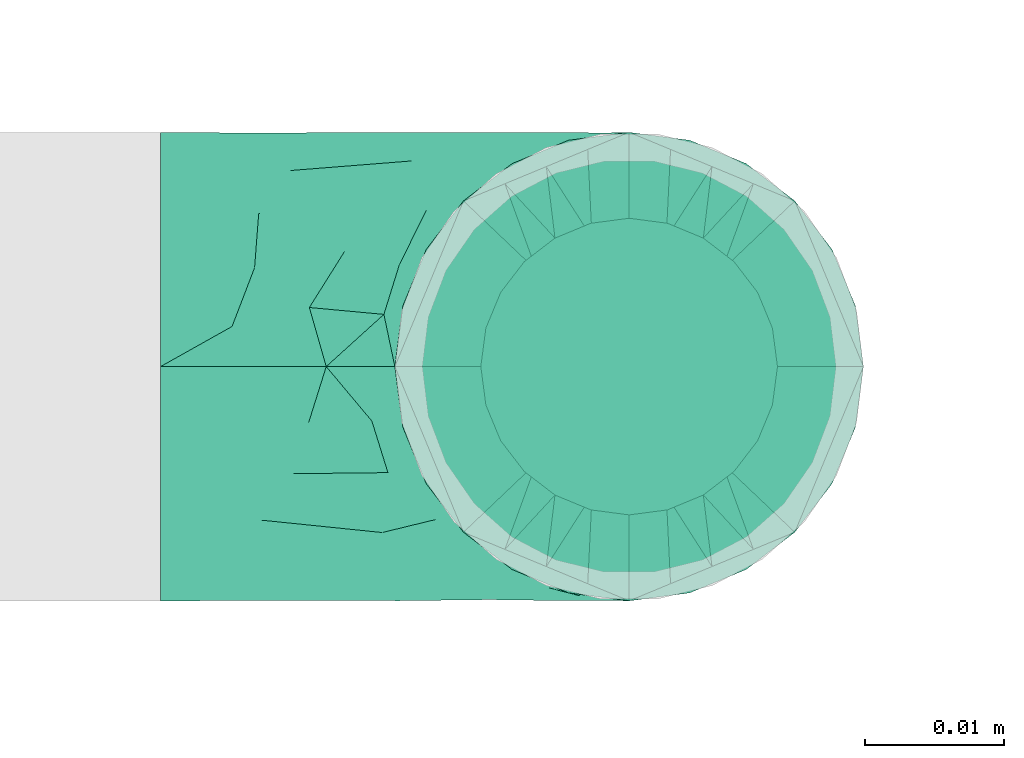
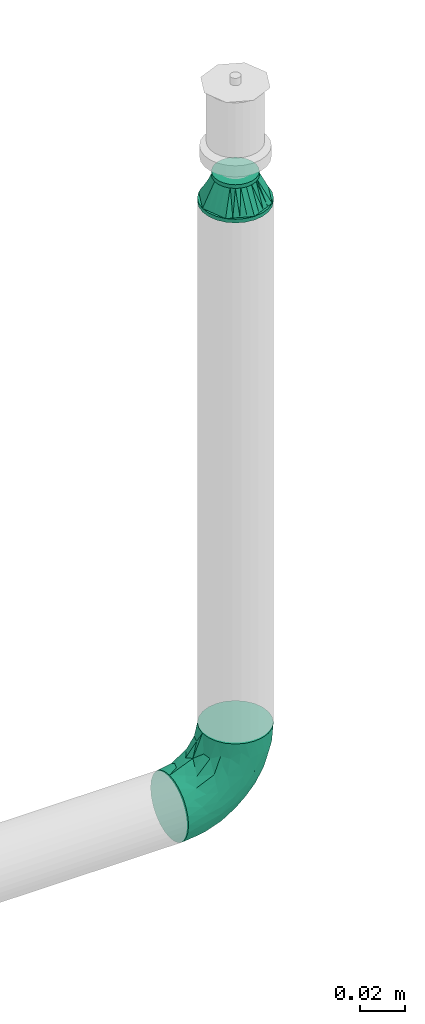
# One storey, part 48 of 63: 2 flow fittings.
"""IFC2X3 building model written with IfcOpenShell, lengths in millimetres."""

import ifcopenshell
import ifcopenshell.guid

model = None  # the IFC model being written
_history = None  # IfcOwnerHistory: only IFC2X3 demands one
_inside = {}  # id of a spatial element -> (the spatial element, [elements in it])
_under = {}  # id of a project, library or spatial element -> (it, [spatial elements below it])
_declared = {}  # id of a project -> (the project, [libraries it declares])
_typed = {}  # id of a type object -> (the type object, [elements of that type])
_made_of = {}  # id of a material, layer set ... -> (it, [elements and type objects made of it])


def new_model(schema):
    """Start an empty IFC model of exactly this schema.

    Asked for "IFC4X3", IfcOpenShell would pick the latest addendum, in which some entities
    have other attributes; the version numbers below select the first issue.
    IFC2X3 requires an IfcOwnerHistory on every rooted entity: one is made here for all.
    """
    global model, _history
    if schema == "IFC4X3":
        model = ifcopenshell.file(schema_version=(4, 3, 0, 0))
    else:
        model = ifcopenshell.file(schema=schema)
    _inside.clear()
    _under.clear()
    _declared.clear()
    _typed.clear()
    _made_of.clear()
    _history = None
    if model.schema == "IFC2X3":
        org = make("IfcOrganization", Name="unknown")
        user = make(
            "IfcPersonAndOrganization",
            ThePerson=make("IfcPerson", FamilyName="unknown"),
            TheOrganization=org,
        )
        app = make(
            "IfcApplication",
            ApplicationDeveloper=org,
            Version="unknown",
            ApplicationFullName="unknown",
            ApplicationIdentifier="unknown",
        )
        _history = make(
            "IfcOwnerHistory",
            OwningUser=user,
            OwningApplication=app,
            ChangeAction="ADDED",
            CreationDate=0,
        )
    return model


def make(cls, **values):
    """One entity of the class cls with the attributes given. An attribute that is None is left unset."""
    return model.create_entity(
        cls, **{name: value for name, value in values.items() if value is not None}
    )


def entity(cls, *values):
    """Any entity or typed value of the class cls, its attributes in the order of the schema. None: left unset."""
    e = model.create_entity(cls)
    for i, value in enumerate(values):
        if value is not None:
            e[i] = value
    return e


def rooted(cls, **values):
    """An entity with a GlobalId (a new one), such as an element, a storey or a relation."""
    return make(cls, GlobalId=ifcopenshell.guid.new(), OwnerHistory=_history, **values)


def si_unit(unit_type, name, prefix=None):
    """IfcSIUnit, for example si_unit("LENGTHUNIT", "METRE", prefix="MILLI")."""
    return make("IfcSIUnit", UnitType=unit_type, Prefix=prefix, Name=name)


def converted_unit(unit_type, name, factor, base, dimensions=None, offset=None):
    """IfcConversionBasedUnit, such as the inch: factor (a typed value) times the base unit."""
    return make(
        "IfcConversionBasedUnit"
        if offset is None
        else "IfcConversionBasedUnitWithOffset",
        ConversionOffset=offset,
        Dimensions=None
        if dimensions is None
        else entity("IfcDimensionalExponents", *dimensions),
        UnitType=unit_type,
        Name=name,
        ConversionFactor=make(
            "IfcMeasureWithUnit", ValueComponent=factor, UnitComponent=base
        ),
    )


def derived_unit(unit_type, elements):
    """IfcDerivedUnit: a product of units, each with its exponent."""
    return make(
        "IfcDerivedUnit",
        Elements=[
            make("IfcDerivedUnitElement", Unit=unit, Exponent=power)
            for unit, power in elements
        ],
        UnitType=unit_type,
    )


def assignment(units):
    """IfcUnitAssignment: the units of a project."""
    return None if units is None else make("IfcUnitAssignment", Units=units)


def point(xyz):
    """IfcCartesianPoint."""
    return None if xyz is None else make("IfcCartesianPoint", Coordinates=xyz)


def direction(xyz):
    """IfcDirection."""
    return None if xyz is None else make("IfcDirection", DirectionRatios=xyz)


def frame(location, z_axis=None, x_axis=None):
    """IfcAxis2Placement3D, a coordinate frame: its origin and axes. An axis left out is left unset."""
    return make(
        "IfcAxis2Placement3D",
        Location=point(location),
        Axis=direction(z_axis),
        RefDirection=direction(x_axis),
    )


def origin_with_axes():
    """The frame at (0, 0, 0) with the z axis (0, 0, 1) and the x axis (1, 0, 0) written out."""
    return frame((0.0, 0.0, 0.0), z_axis=(0.0, 0.0, 1.0), x_axis=(1.0, 0.0, 0.0))


def place(relative_to, where):
    """IfcLocalPlacement: puts the frame where relative to a parent placement (None: the world)."""
    return make(
        "IfcLocalPlacement", PlacementRelTo=relative_to, RelativePlacement=where
    )


def context(
    kind, dimensions, precision=None, world=None, true_north=None, identifier=None
):
    """IfcGeometricRepresentationContext, for example the 3D "Model" context."""
    return make(
        "IfcGeometricRepresentationContext",
        ContextIdentifier=identifier,
        ContextType=kind,
        CoordinateSpaceDimension=dimensions,
        Precision=precision,
        WorldCoordinateSystem=world,
        TrueNorth=true_north,
    )


def subcontext(parent, identifier, kind, view, scale=None):
    """IfcGeometricRepresentationSubContext, for example "Body" below "Model"."""
    return make(
        "IfcGeometricRepresentationSubContext",
        ContextIdentifier=identifier,
        ContextType=kind,
        ParentContext=parent,
        TargetScale=scale,
        TargetView=view,
    )


def project(units=None, contexts=None):
    """IfcProject with its units and contexts."""
    return rooted(
        "IfcProject",
        Name="project",
        RepresentationContexts=contexts,
        UnitsInContext=assignment(units),
    )


def spatial(cls, under=None, at=None, **own):
    """A site, building, storey or space (cls), placed at a placement, below another one or the project."""
    s = rooted(cls, ObjectPlacement=at, **own)
    if under is not None:
        _under.setdefault(under.id(), (under, []))[1].append(s)
    return s


def faces_of(points, faces, orient=None, outer=None):
    """IfcFace entities. A face is a list of loops; a loop is a list of indices into points, from 0.

    orient and outer hold one flag for each loop. By default every Orientation is true, the
    first loop of a face is its IfcFaceOuterBound and the others are IfcFaceBound.
    """
    made = []
    for i, loops in enumerate(faces):
        bounds = []
        for j, loop in enumerate(loops):
            is_outer = j == 0 if outer is None else outer[i][j]
            bounds.append(
                make(
                    "IfcFaceOuterBound" if is_outer else "IfcFaceBound",
                    Bound=make("IfcPolyLoop", Polygon=[points[k] for k in loop]),
                    Orientation=True if orient is None else orient[i][j],
                )
            )
        made.append(make("IfcFace", Bounds=bounds))
    return made


def open_shell(faces, orient=None, outer=None):
    """The faces of one IfcOpenShell. surface_model builds it on its shared points."""
    return ("IfcOpenShell", faces, orient, outer)


def surface_model(cls, points, shells):
    """IfcFaceBasedSurfaceModel or IfcShellBasedSurfaceModel (cls): surfaces that need not close."""
    shared = [point(p) for p in points]
    made = [make(c, CfsFaces=faces_of(shared, fs, o, b)) for c, fs, o, b in shells]
    if cls == "IfcFaceBasedSurfaceModel":
        return make(cls, FbsmFaces=made)
    return make(cls, SbsmBoundary=made)


def shape(context_of_items, identifier, shape_type, items):
    """IfcShapeRepresentation: the items that make up one representation, for example the "Body"."""
    return make(
        "IfcShapeRepresentation",
        ContextOfItems=context_of_items,
        RepresentationIdentifier=identifier,
        RepresentationType=shape_type,
        Items=items,
    )


def source(mapping_origin, context_of_items, identifier, shape_type, items):
    """IfcRepresentationMap: a shape defined once, which mapped items show again and again."""
    return make(
        "IfcRepresentationMap",
        MappingOrigin=mapping_origin,
        MappedRepresentation=shape(context_of_items, identifier, shape_type, items),
    )


def transform(
    local_origin,
    x_axis=None,
    y_axis=None,
    z_axis=None,
    scale=None,
    scale2=None,
    scale3=None,
    uniform=True,
):
    """IfcCartesianTransformationOperator3D, or its non-uniform kind. x_axis, y_axis, z_axis: its Axis1, 2, 3."""
    if uniform:
        return make(
            "IfcCartesianTransformationOperator3D",
            Axis1=direction(x_axis),
            Axis2=direction(y_axis),
            LocalOrigin=point(local_origin),
            Scale=scale,
            Axis3=direction(z_axis),
        )
    return make(
        "IfcCartesianTransformationOperator3DnonUniform",
        Axis1=direction(x_axis),
        Axis2=direction(y_axis),
        LocalOrigin=point(local_origin),
        Scale=scale,
        Axis3=direction(z_axis),
        Scale2=scale2,
        Scale3=scale3,
    )


def mapped(mapping_source, mapping_target):
    """IfcMappedItem: shows the shape of a source again, moved by a transform."""
    return make(
        "IfcMappedItem", MappingSource=mapping_source, MappingTarget=mapping_target
    )


def made_of(thing, what):
    """Note that an element or type object is made of a material, layer set ...; save() writes the relation."""
    if what is not None:
        _made_of.setdefault(what.id(), (what, []))[1].append(thing)
    return thing


def type_object(cls, material=None, **own):
    """A type object (cls), such as IfcWallType, which elements share."""
    return made_of(rooted(cls, **own), material)


def element(
    cls,
    number,
    at=None,
    inside=None,
    cuts=None,
    type_object=None,
    material=None,
    context=None,
    identifier="Body",
    shape_type=None,
    held_by="IfcProductDefinitionShape",
    body=None,
    shapes=None,
    **own,
):
    """One element of the class cls, such as IfcWall. Its Tag is "e" and its number.

    at: its placement. inside: the storey or other place that contains it. cuts: it is an
    opening in that element (IfcRelVoidsElement). A single representation is given by context,
    identifier, shape_type and body (its items); several are given by shapes. held_by: the class
    of the entity that holds the representations. save() writes the other relations.
    """
    e = rooted(cls, Tag="e%d" % number, ObjectPlacement=at, **own)
    if body is not None:
        shapes = [shape(context, identifier, shape_type, body)]
    if shapes is not None:
        e.Representation = make(held_by, Representations=shapes)
    if inside is not None:
        _inside.setdefault(inside.id(), (inside, []))[1].append(e)
    if cuts is not None:
        rooted(
            "IfcRelVoidsElement", RelatingBuildingElement=cuts, RelatedOpeningElement=e
        )
    if type_object is not None:
        _typed.setdefault(type_object.id(), (type_object, []))[1].append(e)
    return made_of(e, material)


def aggregate(whole, parts):
    """IfcRelAggregates: a whole, such as a stair, and the parts it consists of."""
    return rooted("IfcRelAggregates", RelatingObject=whole, RelatedObjects=parts)


def save(model, path):
    """Write the relations noted so far, then the file.

    IfcRelAggregates (storeys below a building ...), IfcRelContainedInSpatialStructure (elements
    in a storey), IfcRelDefinesByType, IfcRelAssociatesMaterial and IfcRelDeclares: one each for
    every whole, place, type object, material and project.
    """
    for whole, parts in _under.values():
        aggregate(whole, parts)
    for where, things in _inside.values():
        rooted(
            "IfcRelContainedInSpatialStructure",
            RelatedElements=things,
            RelatingStructure=where,
        )
    for kind, things in _typed.values():
        rooted("IfcRelDefinesByType", RelatedObjects=things, RelatingType=kind)
    for what, things in _made_of.values():
        rooted("IfcRelAssociatesMaterial", RelatedObjects=things, RelatingMaterial=what)
    for by, libraries in _declared.values():
        rooted("IfcRelDeclares", RelatingContext=by, RelatedDefinitions=libraries)
    model.write(path)


model = new_model("IFC2X3")

# Units and contexts
model_context = context("Model", 3, precision=0.01, world=frame((0.0, 4.29681676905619e-09, 0.0)), true_north=direction((4.01073788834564e-13, 1.0)))
plan_context = context("Plan", 3, precision=0.01, world=frame((0.0, 4.29681676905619e-09, 0.0)), true_north=direction((4.01073788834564e-13, 1.0)))
body_context = subcontext(model_context, "Body", "Model", "MODEL_VIEW")
ifc_project = project(units=[converted_unit("PLANEANGLEUNIT", "DEGREE", entity("IfcPositiveLengthMeasure", 0.0174532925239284), si_unit("PLANEANGLEUNIT", "RADIAN"), dimensions=[0, 0, 0, 0, 0, 0, 0]), si_unit("AREAUNIT", "SQUARE_METRE"), si_unit("LENGTHUNIT", "METRE", prefix="MILLI"), si_unit("MASSUNIT", "GRAM", prefix="KILO"), si_unit("POWERUNIT", "WATT"), si_unit("PRESSUREUNIT", "PASCAL", prefix="KILO"), si_unit("FORCEUNIT", "NEWTON", prefix="KILO"), si_unit("ELECTRICVOLTAGEUNIT", "VOLT"), si_unit("ELECTRICCURRENTUNIT", "AMPERE"), si_unit("THERMODYNAMICTEMPERATUREUNIT", "DEGREE_CELSIUS"), si_unit("TIMEUNIT", "SECOND"), si_unit("VOLUMEUNIT", "CUBIC_METRE"), derived_unit("LINEARVELOCITYUNIT", [(si_unit("LENGTHUNIT", "METRE"), 1), (si_unit("TIMEUNIT", "SECOND"), -1)]), derived_unit("VOLUMETRICFLOWRATEUNIT", [(si_unit("VOLUMEUNIT", "CUBIC_METRE"), 1), (si_unit("TIMEUNIT", "SECOND"), -1)]), derived_unit("THERMALTRANSMITTANCEUNIT", [(si_unit("POWERUNIT", "WATT"), 1), (si_unit("THERMODYNAMICTEMPERATUREUNIT", "KELVIN"), -1), (si_unit("AREAUNIT", "SQUARE_METRE"), -1)]), derived_unit("SOUNDPRESSUREUNIT", [(si_unit("PRESSUREUNIT", "PASCAL"), 1)])], contexts=[model_context, plan_context])

# Site, building, storey
site_placement = place(None, frame((0.0, -4.29681676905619e-09, 0.0), z_axis=(0.0, 0.0, 1.0), x_axis=(1.0, 0.0, 0.0)))
site = spatial("IfcSite", under=ifc_project, at=site_placement, CompositionType="ELEMENT")
building_placement = place(site_placement, frame((0.0, 4.29681676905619e-09, 0.0), z_axis=(0.0, 0.0, 1.0), x_axis=(1.0, 0.0, 0.0)))
building = spatial("IfcBuilding", under=site, at=building_placement, Name="mc-building", CompositionType="ELEMENT")
storey_placement = place(building_placement, frame((0.0, 0.0, 207370.0), z_axis=(0.0, 0.0, 1.0), x_axis=(1.0, 0.0, 0.0)))
storey = spatial("IfcBuildingStorey", under=building, at=storey_placement, Name="Nivå E", CompositionType="ELEMENT", Elevation=207370.0)

# Flow fittings
pipe_fitting_type_1 = type_object("IfcPipeFittingType", Name="magi_pipe_fe_reducer_centric_short_NOR", PredefinedType="TRANSITION")
shared_shape_1 = source(origin_with_axes(), body_context, "Body", "SurfaceModel", [
    surface_model("IfcShellBasedSurfaceModel", [(14.4, 5.35, -9.26647), (14.4, 0.0, -10.7), (14.4, 2.76936, -10.33541), (14.4, 10.33541, -2.76936), (14.4, 7.56604, -7.56604), (14.4, -10.33541, -2.76936), (14.4, 9.26647, -5.35), (14.4, 0.0, 10.7), (14.4, -5.35, -9.26647), (14.4, -2.76936, -10.33541), (14.4, -7.56604, -7.56604), (14.4, -9.26647, -5.35), (14.4, 10.7, 0.0), (14.4, 10.33541, 2.76936), (14.4, 9.26647, 5.35), (14.4, 7.56604, 7.56604), (14.4, 2.76936, 10.33541), (14.4, 5.35, 9.26647), (14.4, -10.33541, 2.76936), (14.4, -7.56604, 7.56604), (14.4, -9.26647, 5.35), (14.4, -10.7, 0.0), (14.4, -2.76936, 10.33541), (14.4, -5.35, 9.26647), (12.4, 2.76936, 10.33541), (12.4, -10.33541, -2.76936), (12.4, 0.0, 10.7), (12.4, 5.35, 9.26647), (12.4, 7.56604, 7.56604), (12.4, 9.26647, 5.35), (12.4, 10.33541, 2.76936), (12.4, -10.33541, 2.76936), (12.4, -2.76936, 10.33541), (12.4, -7.56604, 7.56604), (12.4, -5.35, 9.26647), (12.4, -9.26647, 5.35), (12.4, -10.7, 0.0), (12.4, 10.33541, -2.76936), (12.4, 5.35, -9.26647), (12.4, 9.26647, -5.35), (12.4, 7.56604, -7.56604), (12.4, 2.76936, -10.33541), (12.4, -9.26647, -5.35), (12.4, -5.35, -9.26647), (12.4, -7.56604, -7.56604), (12.4, 0.0, -10.7), (12.4, -2.76936, -10.33541), (12.4, 10.7, 0.0), (-2.0, 11.9501, 11.9501), (-2.0, 0.0, 16.9), (-2.0, 4.37404, 16.32415), (-2.0, 8.45, 14.63583), (-2.0, 14.63583, 8.45), (-2.0, 16.32415, 4.37404), (-2.0, -16.32415, 4.37404), (-2.0, -8.45, 14.63583), (-2.0, -14.63583, 8.45), (-2.0, -11.9501, 11.9501), (-2.0, -4.37404, 16.32415), (-2.0, -16.32415, -4.37404), (-2.0, -16.9, 0.0), (-2.0, -8.45, -14.63583), (-2.0, 16.32415, -4.37404), (-2.0, 11.9501, -11.9501), (-2.0, 14.63583, -8.45), (-2.0, 8.45, -14.63583), (-2.0, 4.37404, -16.32415), (-2.0, 0.0, -16.9), (-2.0, -11.9501, -11.9501), (-2.0, -14.63583, -8.45), (-2.0, -4.37404, -16.32415), (-2.0, 16.9, 0.0), (0.0, 4.37404, -16.32415), (0.0, 8.45, -14.63583), (0.0, 11.9501, -11.9501), (0.0, 0.0, -16.9), (0.0, 16.32415, -4.37404), (0.0, 16.32415, 4.37404), (0.0, 14.63583, -8.45), (0.0, -8.45, -14.63583), (0.0, -4.37404, -16.32415), (0.0, -11.9501, -11.9501), (0.0, -16.32415, -4.37404), (0.0, -14.63583, -8.45), (0.0, -16.32415, 4.37404), (0.0, 16.9, 0.0), (0.0, 14.63583, 8.45), (0.0, 11.9501, 11.9501), (0.0, 4.37404, 16.32415), (0.0, 8.45, 14.63583), (0.0, 0.0, 16.9), (0.0, -14.63583, 8.45), (0.0, -16.9, 0.0), (0.0, -8.45, 14.63583), (0.0, -11.9501, 11.9501), (0.0, -4.37404, 16.32415), (12.4, 9.3625, -2.31662), (0.0, 14.42505, -5.97505), (0.0, 15.66253, -2.98753), (12.4, -6.6875, -6.94985), (0.0, -13.18758, -8.96258), (0.0, 2.98753, -15.66253), (12.4, 0.0, -9.26647), (12.4, 6.6875, -6.94985), (0.0, 8.96258, -13.18758), (12.4, -9.3625, -2.31662), (0.0, -15.66253, -2.98753), (0.0, -14.42505, -5.97505), (0.0, 5.97505, -14.42505), (0.0, -2.98753, -15.66253), (0.0, -8.96258, -13.18758), (0.0, 13.18758, -8.96258), (12.4, 8.025, -4.63324), (12.4, -2.675, -9.26647), (12.4, 2.675, -9.26647), (0.0, -5.97505, -14.42505), (12.4, -8.025, -4.63324), (12.4, -9.3625, 2.31662), (0.0, -14.42505, 5.97505), (0.0, -15.66253, 2.98753), (12.4, 6.6875, 6.94985), (0.0, 13.18758, 8.96258), (0.0, -2.98753, 15.66253), (12.4, 0.0, 9.26647), (12.4, -6.6875, 6.94985), (0.0, -8.96258, 13.18758), (12.4, 9.3625, 2.31662), (0.0, 15.66253, 2.98753), (0.0, 14.42505, 5.97505), (0.0, -5.97505, 14.42505), (0.0, 2.98753, 15.66253), (0.0, 8.96258, 13.18758), (0.0, -13.18758, 8.96258), (12.4, -8.025, 4.63324), (12.4, 2.675, 9.26647), (12.4, -2.675, 9.26647), (0.0, 5.97505, 14.42505), (12.4, 8.025, 4.63324)], [open_shell([[[0, 1, 2]], [[3, 0, 4]], [[5, 0, 3]], [[3, 4, 6]], [[7, 5, 3]], [[1, 8, 9]], [[1, 0, 8]], [[10, 5, 11]], [[5, 10, 8]], [[0, 5, 8]], [[3, 12, 13]], [[13, 14, 15]], [[13, 15, 16]], [[7, 3, 16]], [[16, 15, 17]], [[7, 18, 5]], [[18, 19, 20]], [[21, 5, 18]], [[19, 22, 23]], [[22, 19, 18]], [[7, 22, 18]], [[13, 16, 3]], [[24, 25, 26]], [[27, 25, 24]], [[28, 29, 30]], [[28, 25, 27]], [[31, 26, 25]], [[32, 33, 34]], [[33, 32, 31]], [[33, 31, 35]], [[32, 26, 31]], [[31, 25, 36]], [[30, 37, 28]], [[25, 28, 37]], [[38, 37, 39]], [[37, 38, 25]], [[38, 39, 40]], [[41, 25, 38]], [[42, 43, 44]], [[43, 42, 25]], [[43, 45, 46]], [[43, 25, 41]], [[41, 45, 43]], [[37, 30, 47]], [[25, 5, 36]], [[42, 11, 25]], [[8, 44, 43]], [[42, 44, 10]], [[9, 43, 46]], [[25, 11, 5]], [[5, 21, 36]], [[9, 8, 43]], [[10, 44, 8]], [[10, 11, 42]], [[1, 9, 46]], [[46, 45, 1]], [[41, 2, 45]], [[38, 0, 41]], [[6, 40, 39]], [[38, 40, 4]], [[3, 39, 37]], [[38, 4, 0]], [[0, 2, 41]], [[12, 3, 37]], [[6, 39, 3]], [[6, 4, 40]], [[47, 12, 37]], [[45, 2, 1]], [[30, 13, 47]], [[29, 14, 30]], [[17, 28, 27]], [[29, 28, 15]], [[16, 27, 24]], [[30, 14, 13]], [[13, 12, 47]], [[16, 17, 27]], [[15, 28, 17]], [[15, 14, 29]], [[7, 16, 24]], [[24, 26, 7]], [[32, 22, 26]], [[34, 23, 32]], [[20, 33, 35]], [[34, 33, 19]], [[18, 35, 31]], [[34, 19, 23]], [[23, 22, 32]], [[21, 18, 31]], [[20, 35, 18]], [[20, 19, 33]], [[36, 21, 31]], [[26, 22, 7]], [[48, 49, 50]], [[48, 50, 51]], [[48, 52, 53]], [[48, 53, 49]], [[49, 53, 54]], [[55, 56, 57]], [[55, 58, 49]], [[56, 55, 49]], [[49, 54, 56]], [[54, 59, 60]], [[54, 53, 61]], [[53, 62, 63]], [[63, 62, 64]], [[63, 65, 66]], [[61, 53, 63]], [[67, 63, 66]], [[59, 68, 69]], [[68, 59, 61]], [[61, 67, 70]], [[59, 54, 61]], [[63, 67, 61]], [[53, 71, 62]], [[72, 73, 74]], [[75, 72, 74]], [[74, 76, 77]], [[76, 74, 78]], [[74, 77, 79]], [[75, 79, 80]], [[75, 74, 79]], [[81, 82, 83]], [[82, 81, 79]], [[79, 84, 82]], [[77, 76, 85]], [[77, 86, 87]], [[77, 87, 88]], [[88, 84, 79]], [[88, 87, 89]], [[84, 88, 90]], [[90, 91, 84]], [[92, 82, 84]], [[91, 93, 94]], [[91, 90, 93]], [[93, 90, 95]], [[79, 77, 88]], [[59, 82, 60]], [[69, 83, 59]], [[79, 68, 61]], [[69, 68, 81]], [[80, 61, 70]], [[59, 83, 82]], [[82, 92, 60]], [[80, 79, 61]], [[81, 68, 79]], [[81, 83, 69]], [[75, 80, 70]], [[70, 67, 75]], [[66, 72, 67]], [[65, 73, 66]], [[78, 63, 64]], [[65, 63, 74]], [[76, 64, 62]], [[65, 74, 73]], [[73, 72, 66]], [[85, 76, 62]], [[78, 64, 76]], [[78, 74, 63]], [[71, 85, 62]], [[67, 72, 75]], [[53, 77, 71]], [[52, 86, 53]], [[89, 48, 51]], [[52, 48, 87]], [[88, 51, 50]], [[53, 86, 77]], [[77, 85, 71]], [[88, 89, 51]], [[87, 48, 89]], [[87, 86, 52]], [[90, 88, 50]], [[50, 49, 90]], [[58, 95, 49]], [[55, 93, 58]], [[91, 57, 56]], [[55, 57, 94]], [[84, 56, 54]], [[55, 94, 93]], [[93, 95, 58]], [[92, 84, 54]], [[91, 56, 84]], [[91, 94, 57]], [[60, 92, 54]], [[49, 95, 90]], [[27, 34, 47]], [[47, 34, 43]], [[43, 38, 47]], [[43, 34, 36]], [[90, 87, 94]], [[92, 94, 87]], [[87, 74, 92]], [[75, 92, 74]], [[81, 92, 75]], [[74, 87, 85]], [[96, 97, 98]], [[81, 99, 100]], [[101, 102, 75]], [[98, 85, 47]], [[74, 103, 104]], [[104, 103, 38]], [[105, 106, 107]], [[38, 108, 104]], [[102, 109, 75]], [[110, 99, 81]], [[47, 96, 98]], [[103, 111, 112]], [[109, 102, 113]], [[36, 92, 106]], [[102, 101, 114]], [[110, 115, 43]], [[96, 112, 97]], [[107, 116, 105]], [[36, 106, 105]], [[113, 115, 109]], [[43, 115, 113]], [[116, 107, 100]], [[108, 38, 114]], [[111, 103, 74]], [[111, 97, 112]], [[99, 110, 43]], [[116, 100, 99]], [[101, 108, 114]], [[117, 118, 119]], [[87, 120, 121]], [[122, 123, 90]], [[119, 92, 36]], [[94, 124, 125]], [[125, 124, 34]], [[126, 127, 128]], [[34, 129, 125]], [[123, 130, 90]], [[131, 120, 87]], [[36, 117, 119]], [[124, 132, 133]], [[130, 123, 134]], [[47, 85, 127]], [[123, 122, 135]], [[131, 136, 27]], [[117, 133, 118]], [[128, 137, 126]], [[47, 127, 126]], [[134, 136, 130]], [[27, 136, 134]], [[137, 128, 121]], [[129, 34, 135]], [[132, 124, 94]], [[132, 118, 133]], [[120, 131, 27]], [[137, 121, 120]], [[122, 129, 135]]])]),
])
flow_fitting_1_placement = place(storey_placement, frame((717017.30217, 446162.04449, 3018.36794), z_axis=(0.0, -1.0, 0.0), x_axis=(0.0, 0.0, 1.0)))
element("IfcFlowFitting", 1, at=flow_fitting_1_placement, inside=storey, type_object=pipe_fitting_type_1, Name="magi_pipe_fe_reducer_centric_short_NOR", context=body_context, shape_type="MappedRepresentation", body=[
    mapped(shared_shape_1, transform((0.0, 0.0, 0.0), scale=1.0)),
])
pipe_fitting_type_2 = type_object("IfcPipeFittingType", Name="magi_pipe_fe_elbow_short_001", PredefinedType="BEND")
shared_shape_2 = source(origin_with_axes(), body_context, "Body", "SurfaceModel", [
    surface_model("IfcShellBasedSurfaceModel", [(-33.8, 8.45, -14.63583), (-33.8, 4.37404, -16.32415), (-33.8, 11.9501, -11.9501), (-33.8, -11.9501, -11.9501), (-33.8, -14.63583, -8.45), (-33.8, -8.45, -14.63583), (-33.8, 0.0, -16.9), (-33.8, -4.37404, -16.32415), (-33.8, -4.37404, 16.32415), (-33.8, 0.0, 16.9), (-33.8, -8.45, 14.63583), (-33.8, 16.32415, -4.37404), (-33.8, 14.63583, -8.45), (-33.8, -16.32415, -4.37404), (-33.8, -16.9, 0.0), (-33.8, -16.32415, 4.37404), (-33.8, 11.9501, 11.9501), (-33.8, 14.63583, 8.45), (-33.8, 16.32415, 4.37404), (-33.8, 4.37404, 16.32415), (-33.8, 8.45, 14.63583), (-33.8, -14.63583, 8.45), (-33.8, -11.9501, 11.9501), (-33.8, 16.9, 0.0), (-11.9501, 33.8, -11.9501), (0.0, 33.8, -16.9), (-4.37404, 33.8, -16.32415), (-8.45, 33.8, -14.63583), (-14.63583, 33.8, -8.45), (-16.32415, 33.8, -4.37404), (14.63583, 33.8, -8.45), (8.45, 33.8, 14.63583), (16.32415, 33.8, -4.37404), (8.45, 33.8, -14.63583), (11.9501, 33.8, -11.9501), (4.37404, 33.8, -16.32415), (16.32415, 33.8, 4.37404), (16.9, 33.8, 0.0), (-11.9501, 33.8, 11.9501), (-16.32415, 33.8, 4.37404), (-14.63583, 33.8, 8.45), (-8.45, 33.8, 14.63583), (-4.37404, 33.8, 16.32415), (11.9501, 33.8, 11.9501), (14.63583, 33.8, 8.45), (0.0, 33.8, 16.9), (4.37404, 33.8, 16.32415), (-16.9, 33.8, 0.0), (-24.79389, -13.12945, 9.48721), (-22.19287, -9.75018, 12.59315), (-24.09897, -14.97035, 0.0), (-14.93934, -10.76256, 8.5297), (-22.46095, -14.75051, 5.27077), (14.75051, 22.46094, 5.27077), (11.9251, 13.23888, 4.33236), (13.04069, 14.39795, 0.0), (7.71387, 13.68847, 11.55891), (9.75018, 22.19287, 12.59315), (4.10169, 13.0571, 14.04018), (-24.84007, -6.39063, 15.2048), (-25.81779, -2.23879, 16.61097), (-23.66549, 2.59054, 16.87119), (-26.50418, 14.06512, 11.08152), (-24.21253, 17.66365, 7.72657), (-29.58514, 15.86957, 7.00283), (-6.17382, -7.5455, 0.0), (-13.23888, -11.9251, 4.33236), (-14.39795, -13.04069, 0.0), (-17.81434, 18.87373, 11.97104), (-6.30846, 29.15138, 15.82987), (-2.31622, 25.28002, 16.85849), (-29.23923, 10.23435, 13.77053), (-1.45439, -2.85688, 7.61475), (-0.28326, 0.34872, 10.09509), (-5.74484, -4.04709, 10.4122), (-4.41137, 11.31918, 16.59407), (-8.39727, 3.10034, 15.7812), (-1.72649, 9.1306, 15.53089), (-17.39909, 24.75344, 7.64977), (-26.19233, 20.0512, 0.0), (-28.14518, 17.29657, 4.25857), (-26.05147, 6.6281, 15.96447), (-5.87354, 16.61944, 16.86968), (-12.51807, 12.51807, 16.48937), (-10.06312, 7.38516, 16.81295), (-3.01882, 3.01882, 13.81718), (-13.0571, -4.10169, 14.04018), (-16.82553, -0.15166, 16.38038), (10.76256, 14.93934, 8.5297), (13.12945, 24.79389, 9.48721), (6.39063, 24.84007, 15.2048), (2.23879, 25.81779, 16.61097), (-13.68847, -7.71387, 11.55891), (14.97035, 24.09897, 0.0), (-7.30894, 22.89991, 16.09489), (-10.67958, 26.17414, 14.008), (-12.78295, 18.26924, 15.06066), (-13.88562, 22.45231, 12.93244), (-18.04944, 15.16501, 14.04434), (-23.11658, 20.08178, 4.02986), (-21.84989, 21.84989, 0.0), (-18.55817, 25.48277, 3.93065), (-13.95142, 26.94732, 11.03289), (-18.57098, 7.23906, 16.59756), (-16.58335, 4.14122, 16.89279), (-17.96666, 11.46709, 15.63151), (-9.84453, 17.54304, 16.18938), (0.15166, 16.82553, 16.38038), (-23.27207, 11.47201, 14.23154), (3.84842, 5.86994, 10.70473), (-8.0212, -7.54413, 7.93275), (1.00345, -2.19508, 4.57414), (5.13203, 3.01004, 5.90201), (5.24161, 1.7543, 2.53265), (8.70457, 7.04947, 3.99182), (-20.0512, 26.19233, 0.0), (8.4852, 8.76699, 7.09296), (-4.55488, -6.72064, 4.90681), (2.05031, -2.05031, 0.0), (7.5455, 6.17382, 0.0), (-26.75399, 2.1369, -16.845), (-14.61995, 24.73803, -11.27736), (-28.45274, -13.45335, -9.81895), (-26.00469, 6.63555, -15.96645), (-23.06726, 20.04573, -4.26202), (-13.80647, -4.26506, -14.17873), (-14.67501, -0.21081, -16.07388), (-6.7902, -0.2828, -13.8478), (-24.53586, 11.08096, -14.13417), (-26.72048, 14.00837, -11.05776), (10.0967, 24.44989, -12.75976), (5.83237, 21.40218, -15.03047), (6.66249, 28.54238, -15.38093), (-20.38182, 15.48705, -12.74596), (12.53268, 21.23441, -9.15363), (12.54494, 15.67504, -5.54878), (9.7522, 12.89279, -8.66343), (-15.65186, 19.64213, -13.01327), (-12.03528, 20.66498, -14.67665), (-15.61907, 15.61906, -14.83879), (-25.56551, -15.26206, 0.0), (-24.65452, -15.12934, -5.50955), (13.45335, 28.45274, -9.81895), (15.12934, 24.65452, -5.50955), (-7.35442, -8.31014, -5.65563), (-15.67504, -12.54494, -5.54878), (-24.44989, -10.0967, -12.75976), (0.16522, 0.41303, -9.71728), (-5.70658, -5.33066, -8.89288), (-5.13869, -2.37198, -11.53565), (-21.23441, -12.53268, -9.15363), (0.71146, 7.93863, -14.09382), (0.21081, 14.67501, -16.07388), (3.49291, 14.42772, -14.76381), (-24.89911, -2.13088, -16.591), (-28.54238, -6.66249, -15.38093), (-18.44386, -7.71663, -13.26957), (2.13088, 24.89911, -16.591), (-28.64342, 17.44413, -2.89318), (1.70017, -1.28722, -5.09504), (-16.57067, 26.81947, -7.36596), (-17.69055, 27.4263, -3.76405), (-12.89279, -9.7522, -8.66343), (-5.96611, 5.96611, -15.95814), (-20.53709, 20.09345, -8.28985), (-2.1369, 26.75399, -16.845), (-6.89872, 24.58781, -16.02578), (-10.60739, 26.53157, -13.98044), (-21.40218, -5.83237, -15.03047), (2.93192, 5.89627, -11.55917), (6.89393, 12.61842, -11.82233), (5.58056, 5.95325, -8.79455), (-3.99512, 18.61798, -16.89635), (8.31014, 7.35442, -5.65563), (-9.1383, 9.86148, -16.89041), (-9.99983, 16.02119, -16.39699), (-16.68576, 9.78031, -16.34199), (-27.01915, 16.61158, -7.12979), (15.26206, 25.56551, 0.0), (-18.61798, 3.99512, -16.89635), (-19.37495, 27.82495, 0.0), (-12.61842, -6.89393, -11.82233), (-18.84705, 19.14018, -10.96545)], [open_shell([[[0, 1, 2]], [[3, 4, 5]], [[6, 7, 5]], [[8, 9, 10]], [[1, 6, 2]], [[11, 12, 2]], [[4, 2, 6]], [[2, 13, 10]], [[5, 4, 6]], [[2, 4, 13]], [[14, 15, 13]], [[11, 2, 16]], [[11, 17, 18]], [[11, 16, 17]], [[19, 20, 16]], [[16, 2, 10]], [[19, 16, 10]], [[21, 22, 15]], [[22, 13, 15]], [[22, 10, 13]], [[10, 9, 19]], [[11, 18, 23]], [[24, 25, 26]], [[24, 26, 27]], [[24, 28, 29]], [[25, 24, 30]], [[31, 32, 24]], [[33, 30, 34]], [[33, 35, 25]], [[25, 30, 33]], [[32, 30, 24]], [[32, 36, 37]], [[38, 24, 29]], [[39, 40, 29]], [[40, 38, 29]], [[38, 41, 42]], [[38, 31, 24]], [[31, 38, 42]], [[36, 43, 44]], [[36, 32, 43]], [[31, 45, 46]], [[32, 31, 43]], [[42, 45, 31]], [[39, 29, 47]], [[22, 48, 49]], [[15, 14, 50]], [[51, 48, 52]], [[53, 54, 55]], [[48, 22, 21]], [[15, 52, 21]], [[56, 57, 58]], [[49, 10, 22]], [[49, 59, 10]], [[9, 60, 61]], [[62, 63, 64]], [[65, 66, 67]], [[57, 43, 31]], [[62, 68, 63]], [[42, 69, 70]], [[20, 71, 16]], [[8, 60, 9]], [[72, 73, 74]], [[75, 76, 77]], [[16, 62, 17]], [[40, 39, 78]], [[79, 23, 80]], [[64, 18, 17]], [[9, 61, 19]], [[19, 81, 20]], [[82, 83, 84]], [[74, 85, 86]], [[59, 86, 87]], [[88, 89, 57]], [[90, 31, 46]], [[44, 53, 36]], [[46, 45, 91]], [[54, 53, 88]], [[44, 89, 53]], [[92, 86, 49]], [[89, 44, 43]], [[10, 59, 8]], [[53, 55, 93]], [[93, 36, 53]], [[66, 52, 67]], [[94, 82, 70]], [[95, 96, 94]], [[97, 98, 96]], [[79, 99, 100]], [[41, 38, 95]], [[101, 100, 99]], [[68, 78, 63]], [[42, 41, 69]], [[23, 18, 80]], [[95, 94, 69]], [[78, 101, 99]], [[38, 102, 95]], [[70, 45, 42]], [[97, 95, 102]], [[15, 50, 52]], [[90, 57, 31]], [[57, 90, 58]], [[81, 19, 61]], [[103, 104, 84]], [[105, 81, 103]], [[38, 40, 102]], [[106, 96, 83]], [[94, 106, 82]], [[91, 70, 107]], [[71, 62, 16]], [[62, 108, 98]], [[86, 59, 49]], [[67, 52, 50]], [[60, 59, 87]], [[92, 49, 51]], [[86, 85, 76]], [[91, 90, 46]], [[37, 36, 93]], [[107, 77, 58]], [[107, 58, 90]], [[58, 85, 109]], [[110, 74, 92]], [[72, 74, 110]], [[66, 51, 52]], [[72, 111, 112]], [[113, 114, 112]], [[56, 88, 57]], [[52, 48, 21]], [[49, 48, 51]], [[57, 89, 43]], [[53, 89, 88]], [[103, 81, 61]], [[71, 81, 108]], [[18, 64, 80]], [[63, 78, 99]], [[47, 115, 101]], [[101, 115, 100]], [[40, 78, 102]], [[68, 102, 78]], [[97, 96, 95]], [[105, 98, 108]], [[103, 84, 83]], [[107, 70, 82]], [[76, 84, 87]], [[82, 84, 75]], [[70, 91, 45]], [[90, 91, 107]], [[59, 60, 8]], [[61, 60, 87]], [[73, 85, 74]], [[109, 112, 116]], [[103, 61, 104]], [[105, 103, 83]], [[96, 105, 83]], [[81, 105, 108]], [[96, 98, 105]], [[62, 98, 68]], [[61, 87, 104]], [[87, 84, 104]], [[86, 76, 87]], [[77, 76, 85]], [[58, 77, 85]], [[75, 77, 107]], [[82, 75, 107]], [[76, 75, 84]], [[81, 71, 20]], [[62, 71, 108]], [[95, 69, 41]], [[70, 69, 94]], [[62, 64, 17]], [[80, 63, 99]], [[63, 80, 64]], [[80, 99, 79]], [[66, 65, 117]], [[110, 66, 117]], [[112, 114, 116]], [[118, 117, 65]], [[110, 92, 51]], [[112, 111, 113]], [[119, 55, 54]], [[74, 86, 92]], [[58, 109, 56]], [[116, 56, 109]], [[66, 110, 51]], [[72, 110, 117]], [[111, 72, 117]], [[73, 112, 109]], [[117, 118, 111]], [[113, 111, 118]], [[118, 119, 113]], [[114, 119, 54]], [[119, 114, 113]], [[116, 54, 88]], [[54, 116, 114]], [[116, 88, 56]], [[112, 73, 72]], [[85, 73, 109]], [[78, 39, 101]], [[47, 101, 39]], [[102, 68, 97]], [[97, 68, 98]], [[82, 106, 83]], [[94, 96, 106]], [[1, 120, 6]], [[28, 24, 121]], [[3, 122, 4]], [[0, 123, 1]], [[100, 124, 79]], [[125, 126, 127]], [[128, 2, 129]], [[130, 131, 132]], [[128, 129, 133]], [[134, 135, 136]], [[137, 138, 139]], [[128, 0, 2]], [[67, 140, 141]], [[134, 142, 143]], [[141, 13, 4]], [[144, 65, 145]], [[146, 3, 5]], [[147, 148, 149]], [[145, 141, 150]], [[151, 152, 153]], [[154, 7, 6]], [[5, 155, 146]], [[150, 146, 156]], [[155, 5, 7]], [[143, 135, 134]], [[35, 157, 25]], [[23, 79, 158]], [[148, 159, 144]], [[160, 161, 29]], [[145, 162, 144]], [[163, 152, 151]], [[29, 28, 160]], [[121, 164, 160]], [[33, 34, 130]], [[25, 165, 26]], [[26, 165, 166]], [[142, 34, 30]], [[24, 27, 167]], [[124, 161, 164]], [[157, 35, 132]], [[155, 154, 168]], [[123, 0, 128]], [[169, 170, 171]], [[172, 157, 152]], [[26, 166, 27]], [[132, 35, 33]], [[142, 130, 34]], [[168, 154, 126]], [[136, 135, 173]], [[133, 137, 139]], [[2, 12, 129]], [[170, 131, 130]], [[30, 32, 143]], [[172, 174, 175]], [[176, 123, 128]], [[158, 177, 11]], [[135, 55, 119]], [[167, 27, 166]], [[175, 166, 172]], [[137, 167, 138]], [[122, 141, 4]], [[140, 14, 13]], [[32, 37, 178]], [[170, 130, 134]], [[152, 157, 131]], [[165, 157, 172]], [[153, 170, 151]], [[152, 163, 174]], [[168, 125, 156]], [[122, 146, 150]], [[120, 154, 6]], [[179, 174, 126]], [[179, 126, 154]], [[126, 163, 127]], [[162, 145, 150]], [[140, 13, 141]], [[32, 178, 143]], [[55, 143, 178]], [[177, 129, 12]], [[128, 133, 139]], [[176, 128, 139]], [[120, 123, 179]], [[121, 160, 28]], [[161, 100, 180]], [[166, 175, 138]], [[121, 24, 167]], [[161, 47, 29]], [[79, 124, 158]], [[124, 164, 177]], [[161, 124, 100]], [[136, 171, 170]], [[127, 163, 151]], [[147, 171, 159]], [[148, 144, 162]], [[127, 151, 169]], [[127, 181, 125]], [[129, 177, 164]], [[12, 11, 177]], [[159, 65, 144]], [[67, 141, 145]], [[143, 55, 135]], [[135, 119, 173]], [[123, 120, 1]], [[154, 120, 179]], [[157, 165, 25]], [[166, 165, 172]], [[172, 152, 174]], [[176, 139, 175]], [[126, 174, 163]], [[176, 174, 179]], [[174, 176, 175]], [[123, 176, 179]], [[150, 181, 162]], [[127, 149, 181]], [[181, 148, 162]], [[159, 148, 147]], [[171, 136, 173]], [[170, 134, 136]], [[159, 171, 173]], [[171, 147, 169]], [[169, 147, 149]], [[151, 170, 169]], [[164, 182, 129]], [[182, 121, 137]], [[181, 149, 148]], [[169, 149, 127]], [[182, 137, 133]], [[167, 137, 121]], [[166, 138, 167]], [[175, 139, 138]], [[129, 182, 133]], [[121, 182, 164]], [[161, 160, 164]], [[47, 161, 180]], [[177, 158, 124]], [[23, 158, 11]], [[130, 132, 33]], [[157, 132, 131]], [[143, 142, 30]], [[130, 142, 134]], [[154, 155, 7]], [[146, 155, 168]], [[146, 122, 3]], [[141, 122, 150]], [[152, 131, 153]], [[159, 119, 118]], [[67, 145, 65]], [[170, 153, 131]], [[119, 159, 173]], [[159, 118, 65]], [[156, 125, 181]], [[126, 125, 168]], [[150, 156, 181]], [[168, 156, 146]]])]),
])
flow_fitting_2_placement = place(storey_placement, frame((717017.30217, 446162.04449, 2700.0), z_axis=(0.0, -1.0, 0.0), x_axis=(1.0, 0.0, 0.0)))
element("IfcFlowFitting", 2, at=flow_fitting_2_placement, inside=storey, type_object=pipe_fitting_type_2, Name="magi_pipe_fe_elbow_short_001", context=body_context, shape_type="MappedRepresentation", body=[
    mapped(shared_shape_2, transform((0.0, 0.0, 0.0), scale=1.0)),
])

save(model, "model.ifc")
